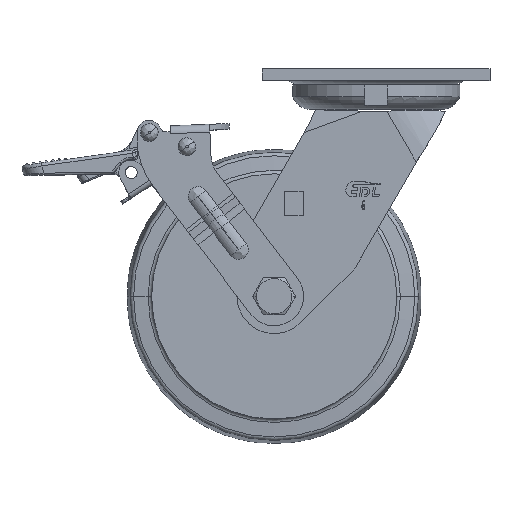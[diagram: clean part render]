
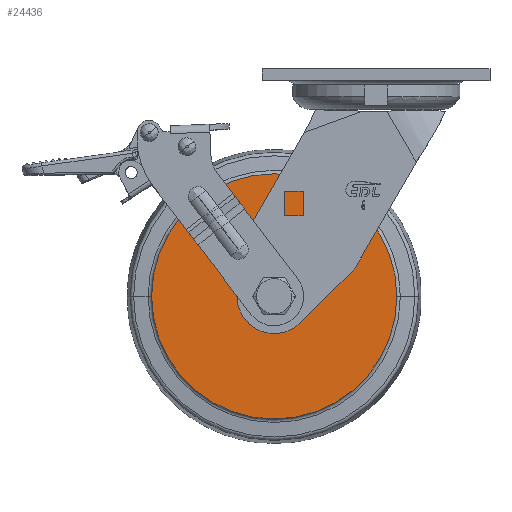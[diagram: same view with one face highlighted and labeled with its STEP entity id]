
A CAD part, top view. The second image highlights one B-rep face of the part: STEP entity #24436.
In plain terms, the highlighted planar face has unit normal (0, 0, 1) as drawn and (-1, 0, 0) by its records, which use the part's own axes.
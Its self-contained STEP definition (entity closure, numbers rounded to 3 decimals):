
#23971=CARTESIAN_POINT('',(-25.,0.,0.));
#23972=DIRECTION('',(-1.,0.,0.));
#23973=DIRECTION('',(0.,1.,0.));
#23974=AXIS2_PLACEMENT_3D('',#23971,#23972,#23973);
#23976=CARTESIAN_POINT('',(-25.,0.,0.));
#23977=DIRECTION('',(1.,0.,0.));
#23978=DIRECTION('',(0.,1.,0.));
#23979=AXIS2_PLACEMENT_3D('',#23976,#23977,#23978);
#23981=CARTESIAN_POINT('',(-25.,0.,0.));
#23982=DIRECTION('',(1.,0.,0.));
#23983=DIRECTION('',(0.,1.,0.));
#23984=AXIS2_PLACEMENT_3D('',#23981,#23982,#23983);
#23994=CARTESIAN_POINT('',(-25.,0.,0.));
#23995=DIRECTION('',(-1.,0.,0.));
#23996=DIRECTION('',(0.,1.,0.));
#23997=AXIS2_PLACEMENT_3D('',#23994,#23995,#23996);
#24125=CARTESIAN_POINT('',(-25.,62.5,0.));
#24126=VERTEX_POINT('',#24125);
#24127=CARTESIAN_POINT('',(-25.,12.,0.));
#24129=VERTEX_POINT('',#24127);
#24157=CARTESIAN_POINT('',(-25.,-62.5,0.));
#24158=VERTEX_POINT('',#24157);
#24159=CARTESIAN_POINT('',(-25.,-12.,0.));
#24161=VERTEX_POINT('',#24159);
#24421=CARTESIAN_POINT('',(-25.,0.,0.));
#24422=DIRECTION('',(1.,0.,0.));
#24423=DIRECTION('',(0.,-1.,0.));
#24424=AXIS2_PLACEMENT_3D('',#24421,#24422,#24423);
#24425=PLANE('',#24424);
#24426=ORIENTED_EDGE('',*,*,#24414,.F.);
#24427=ORIENTED_EDGE('',*,*,#24403,.T.);
#24428=EDGE_LOOP('',(#24426,#24427));
#24429=FACE_OUTER_BOUND('',#24428,.F.);
#24431=ORIENTED_EDGE('',*,*,#24430,.F.);
#24433=ORIENTED_EDGE('',*,*,#24432,.T.);
#24434=EDGE_LOOP('',(#24431,#24433));
#24435=FACE_BOUND('',#24434,.F.);
#23975=CIRCLE('',#23974,62.5);
#23980=CIRCLE('',#23979,62.5);
#23985=CIRCLE('',#23984,12.);
#23998=CIRCLE('',#23997,12.);
#24403=EDGE_CURVE('',#24126,#24158,#23980,.T.);
#24414=EDGE_CURVE('',#24126,#24158,#23975,.T.);
#24430=EDGE_CURVE('',#24129,#24161,#23985,.T.);
#24432=EDGE_CURVE('',#24129,#24161,#23998,.T.);
#24436=ADVANCED_FACE('',(#24429,#24435),#24425,.F.);
